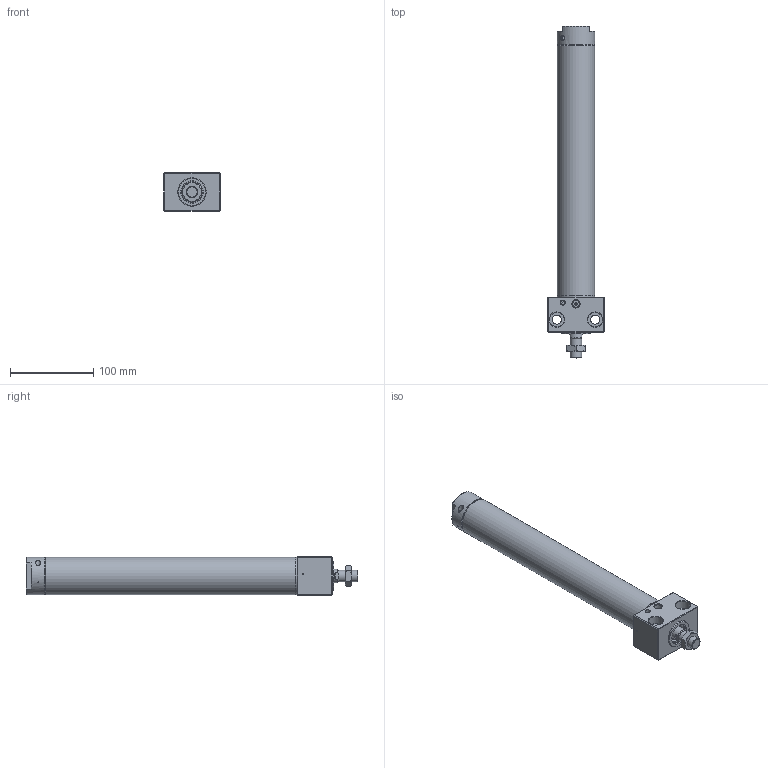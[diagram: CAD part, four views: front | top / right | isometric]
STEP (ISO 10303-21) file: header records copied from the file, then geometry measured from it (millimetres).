
FILE_DESCRIPTION((''),'2;1');
FILE_NAME('I:\3D電子目錄\氣缸\DBS\DBS\DBS40x250-C.stp','2007-10-08T08:49:31',('Administrator'),(''),'Autodesk Inventor 2008','Autodesk Inventor 2008','');
FILE_SCHEMA(('AUTOMOTIVE_DESIGN { 1 0 10303 214 1 1 1 1 }'));
Length unit declared in the file: millimetre
Products named in the file (1): DBS40x250-C
Bounding box: 68 x 398.6 x 46 mm (x, y, z)
Volume: 279175.1 mm3; surface area: 123451.2 mm2
Topology: 7 solids, 7 shells, 207 faces, 421 edges, 258 vertices
Faces by surface type: plane 92, cone 50, cylinder 46, bspline 16, torus 3
Full cylindrical faces by diameter (mm): 1.2 x1, 1.9 x2, 3 x2, 3.3 x1, 4.6 x2, 5 x2, 6 x2, 10.5 x1, 12 x1, 13 x1, 14 x2, 16 x1, 16.5 x1, 18 x1, 21 x2, 24 x3, 26 x2, 27.5 x1, 28 x2, 34 x1, 38 x2, 38.5 x2, 40 x1, 42.2 x6, 45 x4
Entity records: 5327 total; most frequent: CARTESIAN_POINT 1420, DIRECTION 818, ORIENTED_EDGE 630, AXIS2_PLACEMENT_3D 361, EDGE_LOOP 350, EDGE_CURVE 315, VERTEX_POINT 243, FACE_OUTER_BOUND 207
